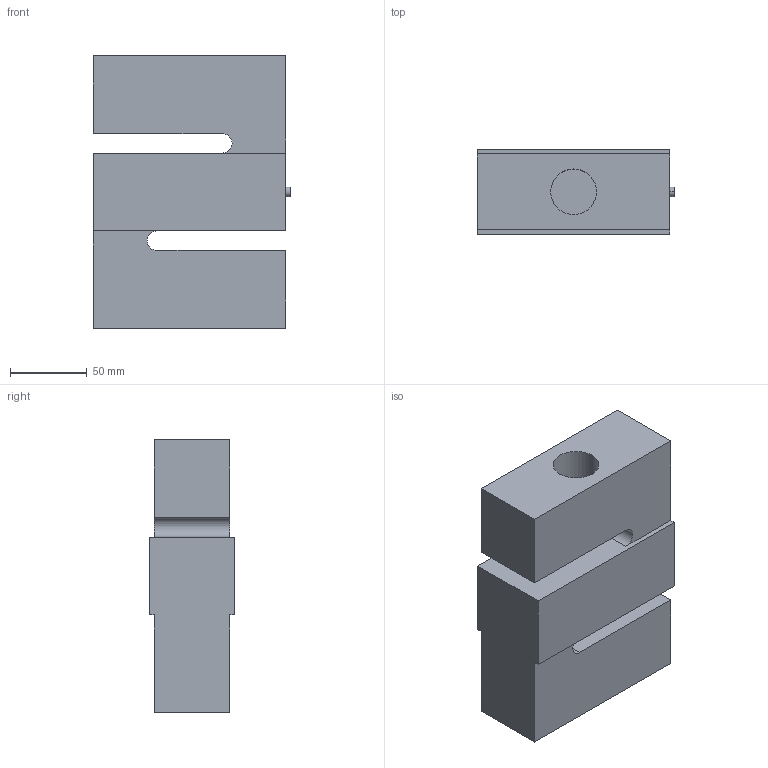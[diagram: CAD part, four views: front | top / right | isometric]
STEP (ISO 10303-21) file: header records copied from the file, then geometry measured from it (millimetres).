
FILE_DESCRIPTION (( 'STEP AP214' ), '1' );
FILE_NAME ('SS1009-20K.STEP', '2014-05-20T18:50:22', ( '' ), ( '' ), 'SwSTEP 2.0', 'SolidWorks 2008', '' );
FILE_SCHEMA (( 'AUTOMOTIVE_DESIGN' ));
Length unit declared in the file: inch
Products named in the file (1): SS1009-20K
Bounding box: 128.65 x 55.63 x 177.8 mm (x, y, z)
Volume: 957734 mm3; surface area: 96288.6 mm2
Topology: 1 solids, 1 shells, 25 faces, 66 edges, 44 vertices
Faces by surface type: plane 17, cylinder 8
Entity records: 863 total; most frequent: CARTESIAN_POINT 136, DIRECTION 134, ORIENTED_EDGE 132, EDGE_CURVE 66, VECTOR 50, LINE 50, VERTEX_POINT 44, AXIS2_PLACEMENT_3D 42
